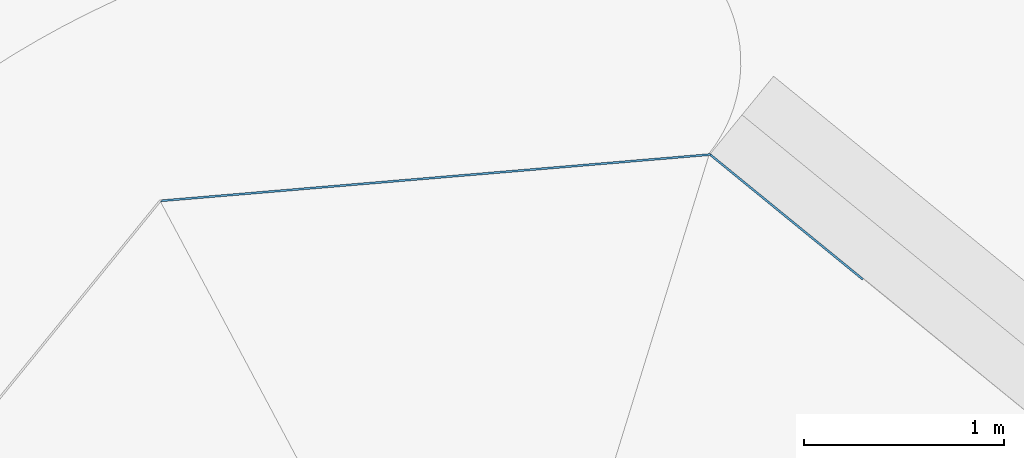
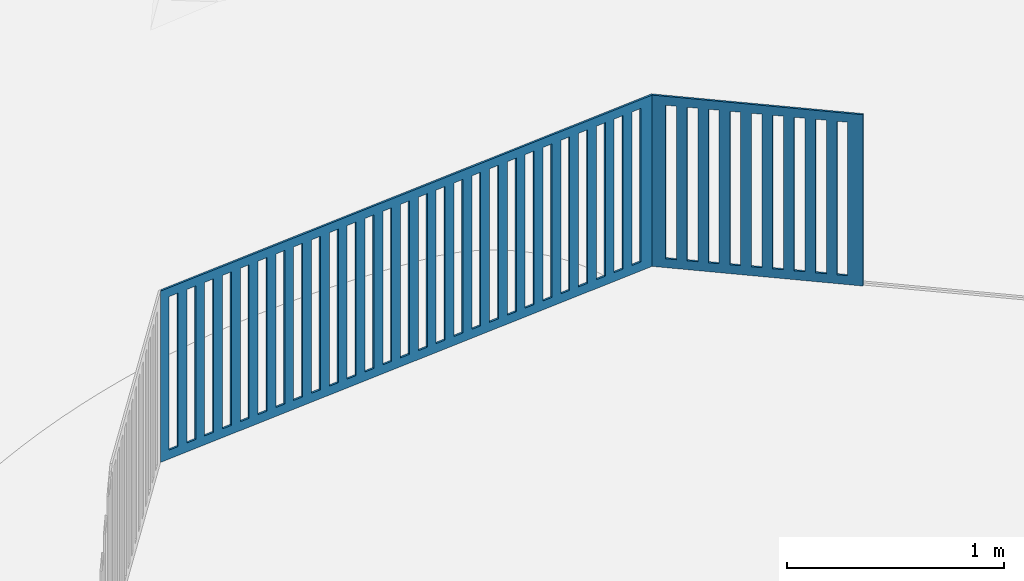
# One storey, part 30 of 75: 2 walls, 36 openings.
"""IFC2X3 building model written with IfcOpenShell, lengths in metres."""

import ifcopenshell
import ifcopenshell.guid

model = None  # the IFC model being written
_history = None  # IfcOwnerHistory: only IFC2X3 demands one
_inside = {}  # id of a spatial element -> (the spatial element, [elements in it])
_under = {}  # id of a project, library or spatial element -> (it, [spatial elements below it])
_declared = {}  # id of a project -> (the project, [libraries it declares])
_typed = {}  # id of a type object -> (the type object, [elements of that type])
_made_of = {}  # id of a material, layer set ... -> (it, [elements and type objects made of it])


def new_model(schema):
    """Start an empty IFC model of exactly this schema.

    Asked for "IFC4X3", IfcOpenShell would pick the latest addendum, in which some entities
    have other attributes; the version numbers below select the first issue.
    IFC2X3 requires an IfcOwnerHistory on every rooted entity: one is made here for all.
    """
    global model, _history
    if schema == "IFC4X3":
        model = ifcopenshell.file(schema_version=(4, 3, 0, 0))
    else:
        model = ifcopenshell.file(schema=schema)
    _inside.clear()
    _under.clear()
    _declared.clear()
    _typed.clear()
    _made_of.clear()
    _history = None
    if model.schema == "IFC2X3":
        org = make("IfcOrganization", Name="unknown")
        user = make(
            "IfcPersonAndOrganization",
            ThePerson=make("IfcPerson", FamilyName="unknown"),
            TheOrganization=org,
        )
        app = make(
            "IfcApplication",
            ApplicationDeveloper=org,
            Version="unknown",
            ApplicationFullName="unknown",
            ApplicationIdentifier="unknown",
        )
        _history = make(
            "IfcOwnerHistory",
            OwningUser=user,
            OwningApplication=app,
            ChangeAction="ADDED",
            CreationDate=0,
        )
    return model


def make(cls, **values):
    """One entity of the class cls with the attributes given. An attribute that is None is left unset."""
    return model.create_entity(
        cls, **{name: value for name, value in values.items() if value is not None}
    )


def entity(cls, *values):
    """Any entity or typed value of the class cls, its attributes in the order of the schema. None: left unset."""
    e = model.create_entity(cls)
    for i, value in enumerate(values):
        if value is not None:
            e[i] = value
    return e


def rooted(cls, **values):
    """An entity with a GlobalId (a new one), such as an element, a storey or a relation."""
    return make(cls, GlobalId=ifcopenshell.guid.new(), OwnerHistory=_history, **values)


def si_unit(unit_type, name, prefix=None):
    """IfcSIUnit, for example si_unit("LENGTHUNIT", "METRE", prefix="MILLI")."""
    return make("IfcSIUnit", UnitType=unit_type, Prefix=prefix, Name=name)


def converted_unit(unit_type, name, factor, base, dimensions=None, offset=None):
    """IfcConversionBasedUnit, such as the inch: factor (a typed value) times the base unit."""
    return make(
        "IfcConversionBasedUnit"
        if offset is None
        else "IfcConversionBasedUnitWithOffset",
        ConversionOffset=offset,
        Dimensions=None
        if dimensions is None
        else entity("IfcDimensionalExponents", *dimensions),
        UnitType=unit_type,
        Name=name,
        ConversionFactor=make(
            "IfcMeasureWithUnit", ValueComponent=factor, UnitComponent=base
        ),
    )


def derived_unit(unit_type, elements):
    """IfcDerivedUnit: a product of units, each with its exponent."""
    return make(
        "IfcDerivedUnit",
        Elements=[
            make("IfcDerivedUnitElement", Unit=unit, Exponent=power)
            for unit, power in elements
        ],
        UnitType=unit_type,
    )


def assignment(units):
    """IfcUnitAssignment: the units of a project."""
    return None if units is None else make("IfcUnitAssignment", Units=units)


def point(xyz):
    """IfcCartesianPoint."""
    return None if xyz is None else make("IfcCartesianPoint", Coordinates=xyz)


def direction(xyz):
    """IfcDirection."""
    return None if xyz is None else make("IfcDirection", DirectionRatios=xyz)


def frame(location, z_axis=None, x_axis=None):
    """IfcAxis2Placement3D, a coordinate frame: its origin and axes. An axis left out is left unset."""
    return make(
        "IfcAxis2Placement3D",
        Location=point(location),
        Axis=direction(z_axis),
        RefDirection=direction(x_axis),
    )


def frame_2d(location, x_axis=None):
    """IfcAxis2Placement2D, a coordinate frame in the plane: its origin and x axis."""
    return make(
        "IfcAxis2Placement2D", Location=point(location), RefDirection=direction(x_axis)
    )


def origin():
    """The frame at (0, 0, 0) with its axes left unset."""
    return frame((0.0, 0.0, 0.0))


def place(relative_to, where):
    """IfcLocalPlacement: puts the frame where relative to a parent placement (None: the world)."""
    return make(
        "IfcLocalPlacement", PlacementRelTo=relative_to, RelativePlacement=where
    )


def context(
    kind, dimensions, precision=None, world=None, true_north=None, identifier=None
):
    """IfcGeometricRepresentationContext, for example the 3D "Model" context."""
    return make(
        "IfcGeometricRepresentationContext",
        ContextIdentifier=identifier,
        ContextType=kind,
        CoordinateSpaceDimension=dimensions,
        Precision=precision,
        WorldCoordinateSystem=world,
        TrueNorth=true_north,
    )


def subcontext(parent, identifier, kind, view, scale=None):
    """IfcGeometricRepresentationSubContext, for example "Body" below "Model"."""
    return make(
        "IfcGeometricRepresentationSubContext",
        ContextIdentifier=identifier,
        ContextType=kind,
        ParentContext=parent,
        TargetScale=scale,
        TargetView=view,
    )


def project(units=None, contexts=None):
    """IfcProject with its units and contexts."""
    return rooted(
        "IfcProject",
        Name="project",
        RepresentationContexts=contexts,
        UnitsInContext=assignment(units),
    )


def spatial(cls, under=None, at=None, **own):
    """A site, building, storey or space (cls), placed at a placement, below another one or the project."""
    s = rooted(cls, ObjectPlacement=at, **own)
    if under is not None:
        _under.setdefault(under.id(), (under, []))[1].append(s)
    return s


def polyline(points):
    """IfcPolyline through the points."""
    return make("IfcPolyline", Points=[point(p) for p in points])


def profile(cls, at=None, kind="AREA", **sizes):
    """A parametric profile (cls). Its sizes go by their IFC names, for example OverallWidth=200.0."""
    return make(cls, ProfileType=kind, Position=at, **sizes)


def rectangle(**sizes):
    """IfcRectangleProfileDef."""
    return profile("IfcRectangleProfileDef", **sizes)


def outline(outer, holes=None, kind="AREA"):
    """IfcArbitraryClosedProfileDef: a profile drawn as a closed curve; with holes, ...WithVoids."""
    if holes is None:
        return make("IfcArbitraryClosedProfileDef", ProfileType=kind, OuterCurve=outer)
    return make(
        "IfcArbitraryProfileDefWithVoids",
        ProfileType=kind,
        OuterCurve=outer,
        InnerCurves=holes,
    )


def extrude(swept, where, along, depth):
    """IfcExtrudedAreaSolid: the profile swept, set in the frame where, extruded along a direction by depth."""
    return make(
        "IfcExtrudedAreaSolid",
        SweptArea=swept,
        Position=where,
        ExtrudedDirection=direction(along),
        Depth=depth,
    )


def shape(context_of_items, identifier, shape_type, items):
    """IfcShapeRepresentation: the items that make up one representation, for example the "Body"."""
    return make(
        "IfcShapeRepresentation",
        ContextOfItems=context_of_items,
        RepresentationIdentifier=identifier,
        RepresentationType=shape_type,
        Items=items,
    )


def material(Name=None, Category=None):
    """IfcMaterial."""
    return make("IfcMaterial", Name=Name, Category=Category)


def layer(
    of_material, thickness, ventilated=None, Name=None, Category=None, Priority=None
):
    """IfcMaterialLayer: one layer of a wall or slab, of a material (None: an air gap)."""
    return make(
        "IfcMaterialLayer",
        Material=of_material,
        LayerThickness=thickness,
        IsVentilated=ventilated,
        Name=Name,
        Category=Category,
        Priority=Priority,
    )


def layer_set(layers, Name=None):
    """IfcMaterialLayerSet."""
    return make("IfcMaterialLayerSet", MaterialLayers=layers, LayerSetName=Name)


def layer_usage(for_layer_set, set_direction, sense, offset, extent=None):
    """IfcMaterialLayerSetUsage: how a layer set lies in its element."""
    return make(
        "IfcMaterialLayerSetUsage",
        ForLayerSet=for_layer_set,
        LayerSetDirection=set_direction,
        DirectionSense=sense,
        OffsetFromReferenceLine=offset,
        ReferenceExtent=extent,
    )


def made_of(thing, what):
    """Note that an element or type object is made of a material, layer set ...; save() writes the relation."""
    if what is not None:
        _made_of.setdefault(what.id(), (what, []))[1].append(thing)
    return thing


def type_object(cls, material=None, **own):
    """A type object (cls), such as IfcWallType, which elements share."""
    return made_of(rooted(cls, **own), material)


def element(
    cls,
    number,
    at=None,
    inside=None,
    cuts=None,
    type_object=None,
    material=None,
    context=None,
    identifier="Body",
    shape_type=None,
    held_by="IfcProductDefinitionShape",
    body=None,
    shapes=None,
    **own,
):
    """One element of the class cls, such as IfcWall. Its Tag is "e" and its number.

    at: its placement. inside: the storey or other place that contains it. cuts: it is an
    opening in that element (IfcRelVoidsElement). A single representation is given by context,
    identifier, shape_type and body (its items); several are given by shapes. held_by: the class
    of the entity that holds the representations. save() writes the other relations.
    """
    e = rooted(cls, Tag="e%d" % number, ObjectPlacement=at, **own)
    if body is not None:
        shapes = [shape(context, identifier, shape_type, body)]
    if shapes is not None:
        e.Representation = make(held_by, Representations=shapes)
    if inside is not None:
        _inside.setdefault(inside.id(), (inside, []))[1].append(e)
    if cuts is not None:
        rooted(
            "IfcRelVoidsElement", RelatingBuildingElement=cuts, RelatedOpeningElement=e
        )
    if type_object is not None:
        _typed.setdefault(type_object.id(), (type_object, []))[1].append(e)
    return made_of(e, material)


def aggregate(whole, parts):
    """IfcRelAggregates: a whole, such as a stair, and the parts it consists of."""
    return rooted("IfcRelAggregates", RelatingObject=whole, RelatedObjects=parts)


def save(model, path):
    """Write the relations noted so far, then the file.

    IfcRelAggregates (storeys below a building ...), IfcRelContainedInSpatialStructure (elements
    in a storey), IfcRelDefinesByType, IfcRelAssociatesMaterial and IfcRelDeclares: one each for
    every whole, place, type object, material and project.
    """
    for whole, parts in _under.values():
        aggregate(whole, parts)
    for where, things in _inside.values():
        rooted(
            "IfcRelContainedInSpatialStructure",
            RelatedElements=things,
            RelatingStructure=where,
        )
    for kind, things in _typed.values():
        rooted("IfcRelDefinesByType", RelatedObjects=things, RelatingType=kind)
    for what, things in _made_of.values():
        rooted("IfcRelAssociatesMaterial", RelatedObjects=things, RelatingMaterial=what)
    for by, libraries in _declared.values():
        rooted("IfcRelDeclares", RelatingContext=by, RelatedDefinitions=libraries)
    model.write(path)


model = new_model("IFC2X3")

# Units and contexts
model_context = context("Model", 3, precision=1e-05, world=origin(), true_north=direction((6.123031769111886e-17, 1.0)))
body_context = subcontext(model_context, "Body", "Model", "MODEL_VIEW")
ifc_project = project(units=[si_unit("LENGTHUNIT", "METRE"), si_unit("AREAUNIT", "SQUARE_METRE"), si_unit("VOLUMEUNIT", "CUBIC_METRE"), converted_unit("PLANEANGLEUNIT", "DEGREE", entity("IfcRatioMeasure", 0.017453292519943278), si_unit("PLANEANGLEUNIT", "RADIAN"), dimensions=[0, 0, 0, 0, 0, 0, 0]), si_unit("MASSUNIT", "GRAM", prefix="KILO"), derived_unit("MASSDENSITYUNIT", [(si_unit("MASSUNIT", "GRAM", prefix="KILO"), 1), (si_unit("LENGTHUNIT", "METRE"), -3)]), derived_unit("IONCONCENTRATIONUNIT", [(si_unit("MASSUNIT", "GRAM", prefix="KILO"), 1), (si_unit("LENGTHUNIT", "METRE"), -3)]), derived_unit("MOMENTOFINERTIAUNIT", [(si_unit("LENGTHUNIT", "METRE"), 4)]), si_unit("TIMEUNIT", "SECOND"), si_unit("FREQUENCYUNIT", "HERTZ"), si_unit("THERMODYNAMICTEMPERATUREUNIT", "DEGREE_CELSIUS"), derived_unit("THERMALTRANSMITTANCEUNIT", [(si_unit("MASSUNIT", "GRAM", prefix="KILO"), 1), (si_unit("THERMODYNAMICTEMPERATUREUNIT", "KELVIN"), -1), (si_unit("TIMEUNIT", "SECOND"), -3)]), derived_unit("THERMALCONDUCTANCEUNIT", [(si_unit("MASSUNIT", "GRAM", prefix="KILO"), 1), (si_unit("THERMODYNAMICTEMPERATUREUNIT", "KELVIN"), -1), (si_unit("TIMEUNIT", "SECOND"), -3), (si_unit("LENGTHUNIT", "METRE"), 1)]), derived_unit("VOLUMETRICFLOWRATEUNIT", [(si_unit("LENGTHUNIT", "METRE"), 3), (si_unit("TIMEUNIT", "SECOND"), -1)]), derived_unit("MASSFLOWRATEUNIT", [(si_unit("MASSUNIT", "GRAM", prefix="KILO"), 1), (si_unit("TIMEUNIT", "SECOND"), -1)]), derived_unit("ROTATIONALFREQUENCYUNIT", [(si_unit("TIMEUNIT", "SECOND"), -1)]), si_unit("ELECTRICCURRENTUNIT", "AMPERE"), si_unit("ELECTRICVOLTAGEUNIT", "VOLT"), si_unit("POWERUNIT", "WATT"), si_unit("FORCEUNIT", "NEWTON", prefix="KILO"), si_unit("ILLUMINANCEUNIT", "LUX"), si_unit("LUMINOUSFLUXUNIT", "LUMEN"), si_unit("LUMINOUSINTENSITYUNIT", "CANDELA"), derived_unit("USERDEFINED", [(si_unit("MASSUNIT", "GRAM", prefix="KILO"), -1), (si_unit("LENGTHUNIT", "METRE"), -2), (si_unit("TIMEUNIT", "SECOND"), 3), (si_unit("LUMINOUSFLUXUNIT", "LUMEN"), 1)]), derived_unit("USERDEFINED", [(si_unit("MASSUNIT", "GRAM", prefix="KILO"), 1), (si_unit("TIMEUNIT", "SECOND"), -3), (si_unit("LENGTHUNIT", "METRE"), 3), (si_unit("ELECTRICCURRENTUNIT", "AMPERE"), -2)]), derived_unit("SOUNDPOWERUNIT", [(si_unit("MASSUNIT", "GRAM", prefix="KILO"), 1), (si_unit("TIMEUNIT", "SECOND"), -3), (si_unit("LENGTHUNIT", "METRE"), 2)]), derived_unit("SOUNDPRESSUREUNIT", [(si_unit("MASSUNIT", "GRAM", prefix="KILO"), 1), (si_unit("LENGTHUNIT", "METRE"), -1), (si_unit("TIMEUNIT", "SECOND"), -2)]), derived_unit("LINEARVELOCITYUNIT", [(si_unit("LENGTHUNIT", "METRE"), 1), (si_unit("TIMEUNIT", "SECOND"), -1)]), si_unit("PRESSUREUNIT", "PASCAL"), derived_unit("USERDEFINED", [(si_unit("MASSUNIT", "GRAM", prefix="KILO"), 1), (si_unit("LENGTHUNIT", "METRE"), -2), (si_unit("TIMEUNIT", "SECOND"), -2)]), derived_unit("LINEARFORCEUNIT", [(si_unit("MASSUNIT", "GRAM", prefix="KILO"), 1), (si_unit("TIMEUNIT", "SECOND"), -2)]), derived_unit("PLANARFORCEUNIT", [(si_unit("MASSUNIT", "GRAM", prefix="KILO"), 1), (si_unit("LENGTHUNIT", "METRE"), -1), (si_unit("TIMEUNIT", "SECOND"), -2)]), derived_unit("SPECIFICHEATCAPACITYUNIT", [(si_unit("THERMODYNAMICTEMPERATUREUNIT", "KELVIN"), -1), (si_unit("LENGTHUNIT", "METRE"), 2), (si_unit("TIMEUNIT", "SECOND"), -2)]), derived_unit("HEATINGVALUEUNIT", [(si_unit("LENGTHUNIT", "METRE"), 2), (si_unit("TIMEUNIT", "SECOND"), -2)]), derived_unit("VAPORPERMEABILITYUNIT", [(si_unit("LENGTHUNIT", "METRE"), -1), (si_unit("TIMEUNIT", "SECOND"), 1)]), derived_unit("DYNAMICVISCOSITYUNIT", [(si_unit("MASSUNIT", "GRAM", prefix="KILO"), 1), (si_unit("TIMEUNIT", "SECOND"), -1), (si_unit("LENGTHUNIT", "METRE"), -1)]), derived_unit("THERMALEXPANSIONCOEFFICIENTUNIT", [(si_unit("THERMODYNAMICTEMPERATUREUNIT", "KELVIN"), -1)]), derived_unit("MODULUSOFELASTICITYUNIT", [(si_unit("MASSUNIT", "GRAM", prefix="KILO"), 1), (si_unit("LENGTHUNIT", "METRE"), -1), (si_unit("TIMEUNIT", "SECOND"), -2)]), derived_unit("ISOTHERMALMOISTURECAPACITYUNIT", [(si_unit("LENGTHUNIT", "METRE"), 3), (si_unit("MASSUNIT", "GRAM", prefix="KILO"), -1)]), derived_unit("MOISTUREDIFFUSIVITYUNIT", [(si_unit("TIMEUNIT", "SECOND"), -1), (si_unit("LENGTHUNIT", "METRE"), 2)])], contexts=[model_context])

# Site, building, storey
site_placement = place(None, origin())
site = spatial("IfcSite", under=ifc_project, at=site_placement, Name="Default", CompositionType="ELEMENT")
building_placement = place(site_placement, origin())
building = spatial("IfcBuilding", under=site, at=building_placement, Name="Projeto", CompositionType="ELEMENT")
storey_placement = place(building_placement, origin())
storey = spatial("IfcBuildingStorey", under=building, at=storey_placement, Name="Nível 1", CompositionType="ELEMENT", Elevation=0.0)

# Wall, openings
ifc_material = material(Name=".ARQ.PIS - CONTRAPISO.ARMADO")
ifc_layer = layer(ifc_material, 0.01)
ifc_layer_set = layer_set([ifc_layer], Name="Parede básica:15cm 2")
ifc_layer_usage = layer_usage(ifc_layer_set, "AXIS2", "POSITIVE", -0.005000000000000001)
wall_type = type_object("IfcWallType", Name="Parede básica:15cm 2", PredefinedType="STANDARD", material=ifc_layer_set)
wall_1_placement = place(storey_placement, frame((21.038525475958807, 35.120815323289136, -2.1), z_axis=(0.0, 0.0, 1.0), x_axis=(-0.9964717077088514, -0.08392934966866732, 0.0)))
wall_1 = element("IfcWallStandardCase", 1, at=wall_1_placement, inside=storey, type_object=wall_type, material=ifc_layer_usage, Name="Parede básica:15cm 2", ObjectType="Parede básica:15cm 2", context=body_context, shape_type="SweptSolid", body=[
    extrude(outline(polyline([(0.9512637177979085, -0.9935844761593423), (0.9651563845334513, -0.9935844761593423), (-0.9546110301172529, 0.9970553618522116), (-0.9618090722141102, 0.9901135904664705), (0.9512637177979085, -0.9935844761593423)])), frame((1.3803538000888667, 0.0, 0.0), z_axis=(0.0, 0.0, 1.0), x_axis=(0.6941771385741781, 0.7198042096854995, 0.0)), (0.0, 0.0, 1.0), 0.9640099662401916),
])
opening_1_placement = place(storey_placement, frame((21.038525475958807, 35.120815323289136, -2.1), z_axis=(0.0, 0.0, 1.0), x_axis=(-0.9964717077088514, -0.08392934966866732, 0.0)))
element("IfcOpeningElement", 2, at=opening_1_placement, cuts=wall_1, Name="Parede básica:15cm 2:1", ObjectType="Opening", context=body_context, shape_type="SweptSolid", body=[
    extrude(rectangle(XDim=0.8640099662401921, YDim=0.049999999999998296, at=frame_2d((-1.3877787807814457e-16, 1.8214596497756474e-16), x_axis=(1.0, 0.0))), frame((2.6926539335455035, -0.005000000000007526, 0.48200498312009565), z_axis=(0.0, 1.0, 0.0), x_axis=(0.0, 0.0, 1.0)), (0.0, 0.0, 1.0), 0.009999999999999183),
])
opening_2_placement = place(storey_placement, frame((21.038525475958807, 35.120815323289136, -2.1), z_axis=(0.0, 0.0, 1.0), x_axis=(-0.9964717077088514, -0.08392934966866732, 0.0)))
element("IfcOpeningElement", 3, at=opening_2_placement, cuts=wall_1, Name="Parede básica:15cm 2:2", ObjectType="Opening", context=body_context, shape_type="SweptSolid", body=[
    extrude(rectangle(XDim=0.8640099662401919, YDim=0.049999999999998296, at=frame_2d((0.0, -1.8214596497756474e-16), x_axis=(1.0, 0.0))), frame((2.592653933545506, -0.005000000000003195, 0.48200498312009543), z_axis=(0.0, 1.0, 0.0), x_axis=(0.0, 0.0, 1.0)), (0.0, 0.0, 1.0), 0.009999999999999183),
])
opening_3_placement = place(storey_placement, frame((21.038525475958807, 35.120815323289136, -2.1), z_axis=(0.0, 0.0, 1.0), x_axis=(-0.9964717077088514, -0.08392934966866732, 0.0)))
element("IfcOpeningElement", 4, at=opening_3_placement, cuts=wall_1, Name="Parede básica:15cm 2:3", ObjectType="Opening", context=body_context, shape_type="SweptSolid", body=[
    extrude(rectangle(XDim=0.8640099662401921, YDim=0.050000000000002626, at=frame_2d((-1.3877787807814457e-16, -1.8214596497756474e-16), x_axis=(1.0, 0.0))), frame((2.492653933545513, -0.005000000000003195, 0.48200498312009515), z_axis=(0.0, 1.0, 0.0), x_axis=(0.0, 0.0, 1.0)), (0.0, 0.0, 1.0), 0.009999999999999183),
])
opening_4_placement = place(storey_placement, frame((21.038525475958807, 35.120815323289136, -2.1), z_axis=(0.0, 0.0, 1.0), x_axis=(-0.9964717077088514, -0.08392934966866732, 0.0)))
element("IfcOpeningElement", 5, at=opening_4_placement, cuts=wall_1, Name="Parede básica:15cm 2:4", ObjectType="Opening", context=body_context, shape_type="SweptSolid", body=[
    extrude(rectangle(XDim=0.8640099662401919, YDim=0.049999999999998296, at=frame_2d((0.0, 1.8214596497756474e-16), x_axis=(1.0, 0.0))), frame((2.3926539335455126, -0.005000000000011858, 0.4820049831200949), z_axis=(0.0, 1.0, 0.0), x_axis=(0.0, 0.0, 1.0)), (0.0, 0.0, 1.0), 0.009999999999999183),
])
opening_5_placement = place(storey_placement, frame((21.038525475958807, 35.120815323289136, -2.1), z_axis=(0.0, 0.0, 1.0), x_axis=(-0.9964717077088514, -0.08392934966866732, 0.0)))
element("IfcOpeningElement", 6, at=opening_5_placement, cuts=wall_1, Name="Parede básica:15cm 2:5", ObjectType="Opening", context=body_context, shape_type="SweptSolid", body=[
    extrude(rectangle(XDim=0.8640099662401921, YDim=0.049999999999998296, at=frame_2d((-1.3877787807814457e-16, -1.8214596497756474e-16), x_axis=(1.0, 0.0))), frame((2.2926539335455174, -0.005000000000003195, 0.4820049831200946), z_axis=(0.0, 1.0, 0.0), x_axis=(0.0, 0.0, 1.0)), (0.0, 0.0, 1.0), 0.009999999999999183),
])
opening_6_placement = place(storey_placement, frame((21.038525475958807, 35.120815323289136, -2.1), z_axis=(0.0, 0.0, 1.0), x_axis=(-0.9964717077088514, -0.08392934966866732, 0.0)))
element("IfcOpeningElement", 7, at=opening_6_placement, cuts=wall_1, Name="Parede básica:15cm 2:6", ObjectType="Opening", context=body_context, shape_type="SweptSolid", body=[
    extrude(rectangle(XDim=0.8640099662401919, YDim=0.049999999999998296, at=frame_2d((0.0, 1.8214596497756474e-16), x_axis=(1.0, 0.0))), frame((2.1926539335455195, -0.005000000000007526, 0.4820049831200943), z_axis=(0.0, 1.0, 0.0), x_axis=(0.0, 0.0, 1.0)), (0.0, 0.0, 1.0), 0.009999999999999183),
])
opening_7_placement = place(storey_placement, frame((21.038525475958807, 35.120815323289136, -2.1), z_axis=(0.0, 0.0, 1.0), x_axis=(-0.9964717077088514, -0.08392934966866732, 0.0)))
element("IfcOpeningElement", 8, at=opening_7_placement, cuts=wall_1, Name="Parede básica:15cm 2:7", ObjectType="Opening", context=body_context, shape_type="SweptSolid", body=[
    extrude(rectangle(XDim=0.8640099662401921, YDim=0.04999999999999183, at=frame_2d((-1.3877787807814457e-16, -1.8214596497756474e-16), x_axis=(1.0, 0.0))), frame((2.092653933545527, -0.005000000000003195, 0.48200498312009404), z_axis=(0.0, 1.0, 0.0), x_axis=(0.0, 0.0, 1.0)), (0.0, 0.0, 1.0), 0.009999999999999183),
])
opening_8_placement = place(storey_placement, frame((21.038525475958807, 35.120815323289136, -2.1), z_axis=(0.0, 0.0, 1.0), x_axis=(-0.9964717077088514, -0.08392934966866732, 0.0)))
element("IfcOpeningElement", 9, at=opening_8_placement, cuts=wall_1, Name="Parede básica:15cm 2:8", ObjectType="Opening", context=body_context, shape_type="SweptSolid", body=[
    extrude(rectangle(XDim=0.8640099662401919, YDim=0.05000000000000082, at=frame_2d((0.0, 2.159730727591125e-15), x_axis=(1.0, 0.0))), frame((1.9926539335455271, -0.005000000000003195, 0.48200498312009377), z_axis=(0.0, 1.0, 0.0), x_axis=(0.0, 0.0, 1.0)), (0.0, 0.0, 1.0), 0.009999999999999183),
])
opening_9_placement = place(storey_placement, frame((21.038525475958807, 35.120815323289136, -2.1), z_axis=(0.0, 0.0, 1.0), x_axis=(-0.9964717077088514, -0.08392934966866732, 0.0)))
element("IfcOpeningElement", 10, at=opening_9_placement, cuts=wall_1, Name="Parede básica:15cm 2:9", ObjectType="Opening", context=body_context, shape_type="SweptSolid", body=[
    extrude(rectangle(XDim=0.8640099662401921, YDim=0.050000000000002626, at=frame_2d((-1.3877787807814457e-16, -1.8214596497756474e-16), x_axis=(1.0, 0.0))), frame((1.8926539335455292, -0.005000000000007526, 0.4820049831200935), z_axis=(0.0, 1.0, 0.0), x_axis=(0.0, 0.0, 1.0)), (0.0, 0.0, 1.0), 0.009999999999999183),
])
opening_10_placement = place(storey_placement, frame((21.038525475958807, 35.120815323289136, -2.1), z_axis=(0.0, 0.0, 1.0), x_axis=(-0.9964717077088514, -0.08392934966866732, 0.0)))
element("IfcOpeningElement", 11, at=opening_10_placement, cuts=wall_1, Name="Parede básica:15cm 2:10", ObjectType="Opening", context=body_context, shape_type="SweptSolid", body=[
    extrude(rectangle(XDim=0.8640099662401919, YDim=0.049999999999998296, at=frame_2d((0.0, -1.8214596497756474e-16), x_axis=(1.0, 0.0))), frame((1.7926539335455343, -0.005000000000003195, 0.4820049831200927), z_axis=(0.0, 1.0, 0.0), x_axis=(0.0, 0.0, 1.0)), (0.0, 0.0, 1.0), 0.009999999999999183),
])
opening_11_placement = place(storey_placement, frame((21.038525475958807, 35.120815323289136, -2.1), z_axis=(0.0, 0.0, 1.0), x_axis=(-0.9964717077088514, -0.08392934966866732, 0.0)))
element("IfcOpeningElement", 12, at=opening_11_placement, cuts=wall_1, Name="Parede básica:15cm 2:11", ObjectType="Opening", context=body_context, shape_type="SweptSolid", body=[
    extrude(rectangle(XDim=0.8640099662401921, YDim=0.049999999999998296, at=frame_2d((-1.3877787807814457e-16, -1.8214596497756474e-16), x_axis=(1.0, 0.0))), frame((1.6926539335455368, -0.005000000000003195, 0.48200498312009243), z_axis=(0.0, 1.0, 0.0), x_axis=(0.0, 0.0, 1.0)), (0.0, 0.0, 1.0), 0.009999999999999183),
])
opening_12_placement = place(storey_placement, frame((21.038525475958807, 35.120815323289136, -2.1), z_axis=(0.0, 0.0, 1.0), x_axis=(-0.9964717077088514, -0.08392934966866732, 0.0)))
element("IfcOpeningElement", 13, at=opening_12_placement, cuts=wall_1, Name="Parede básica:15cm 2:12", ObjectType="Opening", context=body_context, shape_type="SweptSolid", body=[
    extrude(rectangle(XDim=0.8640099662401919, YDim=0.049999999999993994, at=frame_2d((0.0, 1.8214596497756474e-16), x_axis=(1.0, 0.0))), frame((1.5926539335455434, -0.005000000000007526, 0.48200498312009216), z_axis=(0.0, 1.0, 0.0), x_axis=(0.0, 0.0, 1.0)), (0.0, 0.0, 1.0), 0.009999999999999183),
])
opening_13_placement = place(storey_placement, frame((21.038525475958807, 35.120815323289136, -2.1), z_axis=(0.0, 0.0, 1.0), x_axis=(-0.9964717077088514, -0.08392934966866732, 0.0)))
element("IfcOpeningElement", 14, at=opening_13_placement, cuts=wall_1, Name="Parede básica:15cm 2:13", ObjectType="Opening", context=body_context, shape_type="SweptSolid", body=[
    extrude(rectangle(XDim=0.8640099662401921, YDim=0.05000000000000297, at=frame_2d((-1.3877787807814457e-16, 0.0), x_axis=(1.0, 0.0))), frame((1.4926539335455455, -0.005000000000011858, 0.4820049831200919), z_axis=(0.0, 1.0, 0.0), x_axis=(0.0, 0.0, 1.0)), (0.0, 0.0, 1.0), 0.009999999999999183),
])
opening_14_placement = place(storey_placement, frame((21.038525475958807, 35.120815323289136, -2.1), z_axis=(0.0, 0.0, 1.0), x_axis=(-0.9964717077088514, -0.08392934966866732, 0.0)))
element("IfcOpeningElement", 15, at=opening_14_placement, cuts=wall_1, Name="Parede básica:15cm 2:14", ObjectType="Opening", context=body_context, shape_type="SweptSolid", body=[
    extrude(rectangle(XDim=0.8640099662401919, YDim=0.049999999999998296, at=frame_2d((0.0, -2.3401419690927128e-15), x_axis=(1.0, 0.0))), frame((1.3926539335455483, -0.005000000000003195, 0.4820049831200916), z_axis=(0.0, 1.0, 0.0), x_axis=(0.0, 0.0, 1.0)), (0.0, 0.0, 1.0), 0.009999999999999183),
])
opening_15_placement = place(storey_placement, frame((21.038525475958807, 35.120815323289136, -2.1), z_axis=(0.0, 0.0, 1.0), x_axis=(-0.9964717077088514, -0.08392934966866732, 0.0)))
element("IfcOpeningElement", 16, at=opening_15_placement, cuts=wall_1, Name="Parede básica:15cm 2:15", ObjectType="Opening", context=body_context, shape_type="SweptSolid", body=[
    extrude(rectangle(XDim=0.8640099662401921, YDim=0.049999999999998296, at=frame_2d((-1.3877787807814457e-16, -2.3401419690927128e-15), x_axis=(1.0, 0.0))), frame((1.2926539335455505, -0.005000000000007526, 0.4820049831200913), z_axis=(0.0, 1.0, 0.0), x_axis=(0.0, 0.0, 1.0)), (0.0, 0.0, 1.0), 0.009999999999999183),
])
opening_16_placement = place(storey_placement, frame((21.038525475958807, 35.120815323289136, -2.1), z_axis=(0.0, 0.0, 1.0), x_axis=(-0.9964717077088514, -0.08392934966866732, 0.0)))
element("IfcOpeningElement", 17, at=opening_16_placement, cuts=wall_1, Name="Parede básica:15cm 2:16", ObjectType="Opening", context=body_context, shape_type="SweptSolid", body=[
    extrude(rectangle(XDim=0.8640099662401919, YDim=0.049999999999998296, at=frame_2d((0.0, -2.3401419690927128e-15), x_axis=(1.0, 0.0))), frame((1.1926539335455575, -0.005000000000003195, 0.4820049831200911), z_axis=(0.0, 1.0, 0.0), x_axis=(0.0, 0.0, 1.0)), (0.0, 0.0, 1.0), 0.009999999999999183),
])
opening_17_placement = place(storey_placement, frame((21.038525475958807, 35.120815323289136, -2.1), z_axis=(0.0, 0.0, 1.0), x_axis=(-0.9964717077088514, -0.08392934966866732, 0.0)))
element("IfcOpeningElement", 18, at=opening_17_placement, cuts=wall_1, Name="Parede básica:15cm 2:17", ObjectType="Opening", context=body_context, shape_type="SweptSolid", body=[
    extrude(rectangle(XDim=0.8640099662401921, YDim=0.049999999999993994, at=frame_2d((-1.3877787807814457e-16, 1.8214596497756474e-16), x_axis=(1.0, 0.0))), frame((1.0926539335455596, -0.005000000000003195, 0.4820049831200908), z_axis=(0.0, 1.0, 0.0), x_axis=(0.0, 0.0, 1.0)), (0.0, 0.0, 1.0), 0.009999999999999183),
])
opening_18_placement = place(storey_placement, frame((21.038525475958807, 35.120815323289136, -2.1), z_axis=(0.0, 0.0, 1.0), x_axis=(-0.9964717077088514, -0.08392934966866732, 0.0)))
element("IfcOpeningElement", 19, at=opening_18_placement, cuts=wall_1, Name="Parede básica:15cm 2:18", ObjectType="Opening", context=body_context, shape_type="SweptSolid", body=[
    extrude(rectangle(XDim=0.8640099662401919, YDim=0.04999999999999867, at=frame_2d((0.0, -2.1562612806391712e-15), x_axis=(1.0, 0.0))), frame((0.9926539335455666, -0.005000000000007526, 0.48200498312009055), z_axis=(0.0, 1.0, 0.0), x_axis=(0.0, 0.0, 1.0)), (0.0, 0.0, 1.0), 0.009999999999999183),
])
opening_19_placement = place(storey_placement, frame((21.038525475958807, 35.120815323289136, -2.1), z_axis=(0.0, 0.0, 1.0), x_axis=(-0.9964717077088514, -0.08392934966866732, 0.0)))
element("IfcOpeningElement", 20, at=opening_19_placement, cuts=wall_1, Name="Parede básica:15cm 2:19", ObjectType="Opening", context=body_context, shape_type="SweptSolid", body=[
    extrude(rectangle(XDim=0.8640099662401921, YDim=0.049999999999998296, at=frame_2d((-1.3877787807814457e-16, -2.3401419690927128e-15), x_axis=(1.0, 0.0))), frame((0.8926539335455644, -0.005000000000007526, 0.4820049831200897), z_axis=(0.0, 1.0, 0.0), x_axis=(0.0, 0.0, 1.0)), (0.0, 0.0, 1.0), 0.009999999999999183),
])
opening_20_placement = place(storey_placement, frame((21.038525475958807, 35.120815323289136, -2.1), z_axis=(0.0, 0.0, 1.0), x_axis=(-0.9964717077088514, -0.08392934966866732, 0.0)))
element("IfcOpeningElement", 21, at=opening_20_placement, cuts=wall_1, Name="Parede básica:15cm 2:20", ObjectType="Opening", context=body_context, shape_type="SweptSolid", body=[
    extrude(rectangle(XDim=0.8640099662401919, YDim=0.049999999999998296, at=frame_2d((0.0, -2.3401419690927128e-15), x_axis=(1.0, 0.0))), frame((0.7926539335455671, -0.005000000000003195, 0.48200498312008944), z_axis=(0.0, 1.0, 0.0), x_axis=(0.0, 0.0, 1.0)), (0.0, 0.0, 1.0), 0.009999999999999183),
])
opening_21_placement = place(storey_placement, frame((21.038525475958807, 35.120815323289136, -2.1), z_axis=(0.0, 0.0, 1.0), x_axis=(-0.9964717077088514, -0.08392934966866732, 0.0)))
element("IfcOpeningElement", 22, at=opening_21_placement, cuts=wall_1, Name="Parede básica:15cm 2:21", ObjectType="Opening", context=body_context, shape_type="SweptSolid", body=[
    extrude(rectangle(XDim=0.8640099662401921, YDim=0.049999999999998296, at=frame_2d((-1.3877787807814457e-16, -2.3401419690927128e-15), x_axis=(1.0, 0.0))), frame((0.6926539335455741, -0.005000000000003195, 0.48200498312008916), z_axis=(0.0, 1.0, 0.0), x_axis=(0.0, 0.0, 1.0)), (0.0, 0.0, 1.0), 0.009999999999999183),
])
opening_22_placement = place(storey_placement, frame((21.038525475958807, 35.120815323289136, -2.1), z_axis=(0.0, 0.0, 1.0), x_axis=(-0.9964717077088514, -0.08392934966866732, 0.0)))
element("IfcOpeningElement", 23, at=opening_22_placement, cuts=wall_1, Name="Parede básica:15cm 2:22", ObjectType="Opening", context=body_context, shape_type="SweptSolid", body=[
    extrude(rectangle(XDim=0.8640099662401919, YDim=0.049999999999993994, at=frame_2d((0.0, -1.8214596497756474e-16), x_axis=(1.0, 0.0))), frame((0.5926539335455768, -0.005000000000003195, 0.48200498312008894), z_axis=(0.0, 1.0, 0.0), x_axis=(0.0, 0.0, 1.0)), (0.0, 0.0, 1.0), 0.009999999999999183),
])
opening_23_placement = place(storey_placement, frame((21.038525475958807, 35.120815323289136, -2.1), z_axis=(0.0, 0.0, 1.0), x_axis=(-0.9964717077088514, -0.08392934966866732, 0.0)))
element("IfcOpeningElement", 24, at=opening_23_placement, cuts=wall_1, Name="Parede básica:15cm 2:23", ObjectType="Opening", context=body_context, shape_type="SweptSolid", body=[
    extrude(rectangle(XDim=0.8640099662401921, YDim=0.050000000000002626, at=frame_2d((-1.3877787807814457e-16, -1.8214596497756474e-16), x_axis=(1.0, 0.0))), frame((0.492653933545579, -0.005000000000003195, 0.48200498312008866), z_axis=(0.0, 1.0, 0.0), x_axis=(0.0, 0.0, 1.0)), (0.0, 0.0, 1.0), 0.009999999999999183),
])
opening_24_placement = place(storey_placement, frame((21.038525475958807, 35.120815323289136, -2.1), z_axis=(0.0, 0.0, 1.0), x_axis=(-0.9964717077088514, -0.08392934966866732, 0.0)))
element("IfcOpeningElement", 25, at=opening_24_placement, cuts=wall_1, Name="Parede básica:15cm 2:24", ObjectType="Opening", context=body_context, shape_type="SweptSolid", body=[
    extrude(rectangle(XDim=0.8640099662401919, YDim=0.050000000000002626, at=frame_2d((0.0, 1.8214596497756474e-16), x_axis=(1.0, 0.0))), frame((0.3926539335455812, -0.005000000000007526, 0.4820049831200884), z_axis=(0.0, 1.0, 0.0), x_axis=(0.0, 0.0, 1.0)), (0.0, 0.0, 1.0), 0.009999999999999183),
])
opening_25_placement = place(storey_placement, frame((21.038525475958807, 35.120815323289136, -2.1), z_axis=(0.0, 0.0, 1.0), x_axis=(-0.9964717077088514, -0.08392934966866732, 0.0)))
element("IfcOpeningElement", 26, at=opening_25_placement, cuts=wall_1, Name="Parede básica:15cm 2:25", ObjectType="Opening", context=body_context, shape_type="SweptSolid", body=[
    extrude(rectangle(XDim=0.8640099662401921, YDim=0.049999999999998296, at=frame_2d((-1.3877787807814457e-16, -2.3401419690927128e-15), x_axis=(1.0, 0.0))), frame((0.2926539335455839, -0.005000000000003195, 0.4820049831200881), z_axis=(0.0, 1.0, 0.0), x_axis=(0.0, 0.0, 1.0)), (0.0, 0.0, 1.0), 0.009999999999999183),
])
opening_26_placement = place(storey_placement, frame((21.038525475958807, 35.120815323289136, -2.1), z_axis=(0.0, 0.0, 1.0), x_axis=(-0.9964717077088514, -0.08392934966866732, 0.0)))
element("IfcOpeningElement", 27, at=opening_26_placement, cuts=wall_1, Name="Parede básica:15cm 2:26", ObjectType="Opening", context=body_context, shape_type="SweptSolid", body=[
    extrude(rectangle(XDim=0.8640099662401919, YDim=0.049999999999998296, at=frame_2d((0.0, -2.3401419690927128e-15), x_axis=(1.0, 0.0))), frame((0.19265393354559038, -0.005000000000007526, 0.4820049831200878), z_axis=(0.0, 1.0, 0.0), x_axis=(0.0, 0.0, 1.0)), (0.0, 0.0, 1.0), 0.009999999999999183),
])
opening_27_placement = place(storey_placement, frame((21.038525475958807, 35.120815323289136, -2.1), z_axis=(0.0, 0.0, 1.0), x_axis=(-0.9964717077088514, -0.08392934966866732, 0.0)))
element("IfcOpeningElement", 28, at=opening_27_placement, cuts=wall_1, Name="Parede básica:15cm 2:27", ObjectType="Opening", context=body_context, shape_type="SweptSolid", body=[
    extrude(rectangle(XDim=0.8640099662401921, YDim=0.049999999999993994, at=frame_2d((-1.3877787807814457e-16, -1.8214596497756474e-16), x_axis=(1.0, 0.0))), frame((0.09265393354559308, -0.005000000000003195, 0.48200498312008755), z_axis=(0.0, 1.0, 0.0), x_axis=(0.0, 0.0, 1.0)), (0.0, 0.0, 1.0), 0.009999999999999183),
])

wall_2_placement = place(storey_placement, frame((21.800398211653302, 34.495768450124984, -2.100000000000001), z_axis=(0.0, 0.0, 1.0), x_axis=(-0.7744578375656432, 0.6326255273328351, 0.0)))
wall_2 = element("IfcWallStandardCase", 29, at=wall_2_placement, inside=storey, type_object=wall_type, material=ifc_layer_usage, Name="Parede básica:15cm 2", ObjectType="Parede básica:15cm 2", context=body_context, shape_type="SweptSolid", body=[
    extrude(rectangle(XDim=0.009999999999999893, YDim=0.9855980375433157, at=frame_2d((-3.3501847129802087e-15, -2.7478019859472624e-15), x_axis=(1.0, 0.0))), frame((0.4927990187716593, 0.0, 0.0), z_axis=(0.0, 0.0, 1.0), x_axis=(0.0, 1.0, 0.0)), (0.0, 0.0, 1.0), 0.9640099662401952),
])
opening_28_placement = place(storey_placement, frame((21.800398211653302, 34.495768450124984, -2.100000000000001), z_axis=(0.0, 0.0, 1.0), x_axis=(-0.7744578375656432, 0.6326255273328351, 0.0)))
element("IfcOpeningElement", 30, at=opening_28_placement, cuts=wall_2, Name="Parede básica:15cm 2:1", ObjectType="Opening", context=body_context, shape_type="SweptSolid", body=[
    extrude(rectangle(XDim=0.8640099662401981, YDim=0.050000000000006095, at=frame_2d((-1.3877787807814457e-16, 1.3686968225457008e-15), x_axis=(1.0, 0.0))), frame((0.19698195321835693, 0.005000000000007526, 0.48200498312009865), z_axis=(0.0, -1.0, 0.0), x_axis=(0.0, 0.0, -1.0)), (0.0, 0.0, 1.0), 0.009999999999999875),
])
opening_29_placement = place(storey_placement, frame((21.800398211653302, 34.495768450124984, -2.100000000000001), z_axis=(0.0, 0.0, 1.0), x_axis=(-0.7744578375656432, 0.6326255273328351, 0.0)))
element("IfcOpeningElement", 31, at=opening_29_placement, cuts=wall_2, Name="Parede básica:15cm 2:2", ObjectType="Opening", context=body_context, shape_type="SweptSolid", body=[
    extrude(rectangle(XDim=0.8640099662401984, YDim=0.049999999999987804, at=frame_2d((0.0, 1.6757428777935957e-15), x_axis=(1.0, 0.0))), frame((0.09698195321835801, 0.005000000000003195, 0.48200498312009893), z_axis=(0.0, -1.0, 0.0), x_axis=(0.0, 0.0, -1.0)), (0.0, 0.0, 1.0), 0.009999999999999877),
])
opening_30_placement = place(storey_placement, frame((21.800398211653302, 34.495768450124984, -2.100000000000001), z_axis=(0.0, 0.0, 1.0), x_axis=(-0.7744578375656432, 0.6326255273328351, 0.0)))
element("IfcOpeningElement", 32, at=opening_30_placement, cuts=wall_2, Name="Parede básica:15cm 2:3", ObjectType="Opening", context=body_context, shape_type="SweptSolid", body=[
    extrude(rectangle(XDim=0.8640099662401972, YDim=0.0499999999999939, at=frame_2d((5.551115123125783e-17, -1.3686968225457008e-15), x_axis=(1.0, 0.0))), frame((0.29698195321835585, 0.005000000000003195, 0.4820049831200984), z_axis=(0.0, -1.0, 0.0), x_axis=(0.0, 0.0, -1.0)), (0.0, 0.0, 1.0), 0.009999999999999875),
])
opening_31_placement = place(storey_placement, frame((21.800398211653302, 34.495768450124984, -2.100000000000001), z_axis=(0.0, 0.0, 1.0), x_axis=(-0.7744578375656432, 0.6326255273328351, 0.0)))
element("IfcOpeningElement", 33, at=opening_31_placement, cuts=wall_2, Name="Parede básica:15cm 2:4", ObjectType="Opening", context=body_context, shape_type="SweptSolid", body=[
    extrude(rectangle(XDim=0.864009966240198, YDim=0.050000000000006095, at=frame_2d((2.220446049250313e-16, -1.3686968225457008e-15), x_axis=(1.0, 0.0))), frame((0.49698195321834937, 0.005000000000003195, 0.4820049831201), z_axis=(0.0, -1.0, 0.0), x_axis=(0.0, 0.0, -1.0)), (0.0, 0.0, 1.0), 0.009999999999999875),
])
opening_32_placement = place(storey_placement, frame((21.800398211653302, 34.495768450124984, -2.100000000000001), z_axis=(0.0, 0.0, 1.0), x_axis=(-0.7744578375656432, 0.6326255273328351, 0.0)))
element("IfcOpeningElement", 34, at=opening_32_placement, cuts=wall_2, Name="Parede básica:15cm 2:5", ObjectType="Opening", context=body_context, shape_type="SweptSolid", body=[
    extrude(rectangle(XDim=0.8640099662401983, YDim=0.049999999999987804, at=frame_2d((8.326672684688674e-17, -1.6757428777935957e-15), x_axis=(1.0, 0.0))), frame((0.3969819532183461, 0.005000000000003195, 0.4820049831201), z_axis=(0.0, -1.0, 0.0), x_axis=(0.0, 0.0, -1.0)), (0.0, 0.0, 1.0), 0.009999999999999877),
])
opening_33_placement = place(storey_placement, frame((21.800398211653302, 34.495768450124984, -2.100000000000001), z_axis=(0.0, 0.0, 1.0), x_axis=(-0.7744578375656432, 0.6326255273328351, 0.0)))
element("IfcOpeningElement", 35, at=opening_33_placement, cuts=wall_2, Name="Parede básica:15cm 2:6", ObjectType="Opening", context=body_context, shape_type="SweptSolid", body=[
    extrude(rectangle(XDim=0.8640099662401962, YDim=0.050000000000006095, at=frame_2d((0.0, -4.7253867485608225e-15), x_axis=(1.0, 0.0))), frame((0.8969819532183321, 0.004999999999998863, 0.48200498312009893), z_axis=(0.0, -1.0, 0.0), x_axis=(0.0, 0.0, -1.0)), (0.0, 0.0, 1.0), 0.009999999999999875),
])
opening_34_placement = place(storey_placement, frame((21.800398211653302, 34.495768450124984, -2.100000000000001), z_axis=(0.0, 0.0, 1.0), x_axis=(-0.7744578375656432, 0.6326255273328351, 0.0)))
element("IfcOpeningElement", 36, at=opening_34_placement, cuts=wall_2, Name="Parede básica:15cm 2:7", ObjectType="Opening", context=body_context, shape_type="SweptSolid", body=[
    extrude(rectangle(XDim=0.8640099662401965, YDim=0.049999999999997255, at=frame_2d((-1.3877787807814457e-16, 3.049643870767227e-15), x_axis=(1.0, 0.0))), frame((0.7969819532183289, 0.004999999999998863, 0.48200498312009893), z_axis=(0.0, -1.0, 0.0), x_axis=(0.0, 0.0, -1.0)), (0.0, 0.0, 1.0), 0.009999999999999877),
])
opening_35_placement = place(storey_placement, frame((21.800398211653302, 34.495768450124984, -2.100000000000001), z_axis=(0.0, 0.0, 1.0), x_axis=(-0.7744578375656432, 0.6326255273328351, 0.0)))
element("IfcOpeningElement", 37, at=opening_35_placement, cuts=wall_2, Name="Parede básica:15cm 2:8", ObjectType="Opening", context=body_context, shape_type="SweptSolid", body=[
    extrude(rectangle(XDim=0.8640099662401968, YDim=0.05, at=frame_2d((0.0, 3.0461744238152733e-15), x_axis=(1.0, 0.0))), frame((0.6969819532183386, 0.005000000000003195, 0.4820049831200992), z_axis=(0.0, -1.0, 0.0), x_axis=(0.0, 0.0, -1.0)), (0.0, 0.0, 1.0), 0.009999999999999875),
])
opening_36_placement = place(storey_placement, frame((21.800398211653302, 34.495768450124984, -2.100000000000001), z_axis=(0.0, 0.0, 1.0), x_axis=(-0.7744578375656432, 0.6326255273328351, 0.0)))
element("IfcOpeningElement", 38, at=opening_36_placement, cuts=wall_2, Name="Parede básica:15cm 2:9", ObjectType="Opening", context=body_context, shape_type="SweptSolid", body=[
    extrude(rectangle(XDim=0.864009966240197, YDim=0.049999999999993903, at=frame_2d((-1.3877787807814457e-16, 1.3704315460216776e-15), x_axis=(1.0, 0.0))), frame((0.5969819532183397, 0.005000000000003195, 0.4820049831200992), z_axis=(0.0, -1.0, 0.0), x_axis=(0.0, 0.0, -1.0)), (0.0, 0.0, 1.0), 0.009999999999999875),
])

save(model, "model.ifc")
